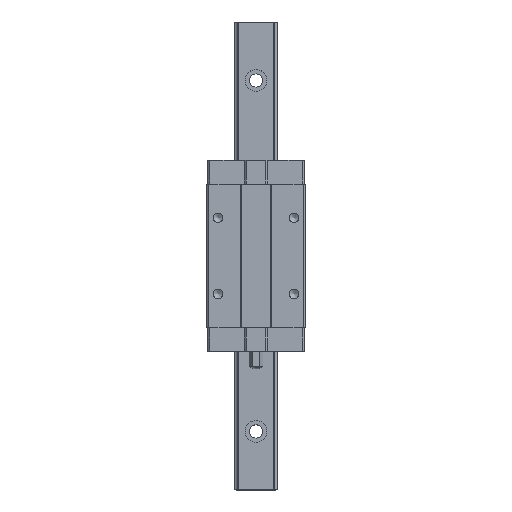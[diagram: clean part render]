
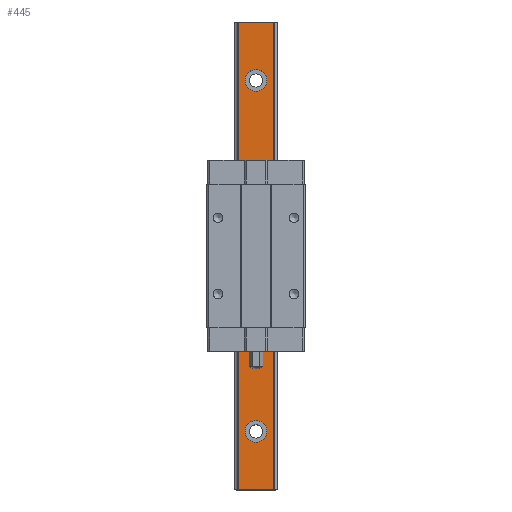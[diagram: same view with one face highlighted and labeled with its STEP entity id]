
A CAD part, top view. The second image highlights one B-rep face of the part: STEP entity #445.
In plain terms, the highlighted planar face has unit normal (0, 0, 1).
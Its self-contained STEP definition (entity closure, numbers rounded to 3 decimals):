
#445 = ADVANCED_FACE( '', ( #920, #921, #922, #923 ), #924, .T. );
#920 = FACE_BOUND( '', #1427, .T. );
#921 = FACE_BOUND( '', #1428, .T. );
#922 = FACE_BOUND( '', #1429, .T. );
#923 = FACE_OUTER_BOUND( '', #1430, .T. );
#924 = PLANE( '', #1431 );
#1427 = EDGE_LOOP( '', ( #2450 ) );
#1428 = EDGE_LOOP( '', ( #2451 ) );
#1429 = EDGE_LOOP( '', ( #2452 ) );
#1430 = EDGE_LOOP( '', ( #2453, #2454, #2455, #2456 ) );
#1431 = AXIS2_PLACEMENT_3D( '', #2457, #2458, #2459 );
#2450 = ORIENTED_EDGE( '', *, *, #2974, .T. );
#2451 = ORIENTED_EDGE( '', *, *, #3326, .T. );
#2452 = ORIENTED_EDGE( '', *, *, #3142, .T. );
#2453 = ORIENTED_EDGE( '', *, *, #3342, .F. );
#2454 = ORIENTED_EDGE( '', *, *, #3343, .F. );
#2455 = ORIENTED_EDGE( '', *, *, #3344, .T. );
#2456 = ORIENTED_EDGE( '', *, *, #3345, .T. );
#2457 = CARTESIAN_POINT( '', ( -6.004, -80., 13. ) );
#2458 = DIRECTION( '', ( 0., 0., 1. ) );
#2459 = DIRECTION( '', ( 1., 0., 0. ) );
#2974 = EDGE_CURVE( '', #3534, #3534, #3535, .T. );
#3142 = EDGE_CURVE( '', #3814, #3814, #3815, .T. );
#3326 = EDGE_CURVE( '', #4079, #4079, #4080, .T. );
#3342 = EDGE_CURVE( '', #4101, #4102, #4103, .T. );
#3343 = EDGE_CURVE( '', #4104, #4101, #4105, .T. );
#3344 = EDGE_CURVE( '', #4104, #4106, #4107, .T. );
#3345 = EDGE_CURVE( '', #4106, #4102, #4108, .T. );
#3534 = VERTEX_POINT( '', #4333 );
#3535 = CIRCLE( '', #4334, 3.75 );
#3814 = VERTEX_POINT( '', #4707 );
#3815 = CIRCLE( '', #4708, 3.75 );
#4079 = VERTEX_POINT( '', #5058 );
#4080 = CIRCLE( '', #5059, 3.75 );
#4101 = VERTEX_POINT( '', #5085 );
#4102 = VERTEX_POINT( '', #5086 );
#4103 = LINE( '', #5087, #5088 );
#4104 = VERTEX_POINT( '', #5089 );
#4105 = LINE( '', #5090, #5091 );
#4106 = VERTEX_POINT( '', #5092 );
#4107 = LINE( '', #5093, #5094 );
#4108 = LINE( '', #5095, #5096 );
#4333 = CARTESIAN_POINT( '', ( 0., -63.75, 13. ) );
#4334 = AXIS2_PLACEMENT_3D( '', #5314, #5315, #5316 );
#4707 = CARTESIAN_POINT( '', ( 0., 56.25, 13. ) );
#4708 = AXIS2_PLACEMENT_3D( '', #5522, #5523, #5524 );
#5058 = CARTESIAN_POINT( '', ( 0., -3.75, 13. ) );
#5059 = AXIS2_PLACEMENT_3D( '', #5743, #5744, #5745 );
#5085 = CARTESIAN_POINT( '', ( -6.004, 80., 13. ) );
#5086 = CARTESIAN_POINT( '', ( 6.004, 80., 13. ) );
#5087 = CARTESIAN_POINT( '', ( -6.004, 80., 13. ) );
#5088 = VECTOR( '', #5760, 1000. );
#5089 = CARTESIAN_POINT( '', ( -6.004, -80., 13. ) );
#5090 = CARTESIAN_POINT( '', ( -6.004, -80., 13. ) );
#5091 = VECTOR( '', #5761, 1000. );
#5092 = CARTESIAN_POINT( '', ( 6.004, -80., 13. ) );
#5093 = CARTESIAN_POINT( '', ( -6.004, -80., 13. ) );
#5094 = VECTOR( '', #5762, 1000. );
#5095 = CARTESIAN_POINT( '', ( 6.004, -80., 13. ) );
#5096 = VECTOR( '', #5763, 1000. );
#5314 = CARTESIAN_POINT( '', ( 0., -60., 13. ) );
#5315 = DIRECTION( '', ( 0., 0., -1. ) );
#5316 = DIRECTION( '', ( 0., -1., 0. ) );
#5522 = CARTESIAN_POINT( '', ( 0., 60., 13. ) );
#5523 = DIRECTION( '', ( 0., 0., -1. ) );
#5524 = DIRECTION( '', ( 0., -1., 0. ) );
#5743 = CARTESIAN_POINT( '', ( 0., 0., 13. ) );
#5744 = DIRECTION( '', ( 0., 0., -1. ) );
#5745 = DIRECTION( '', ( 0., -1., 0. ) );
#5760 = DIRECTION( '', ( 1., 0., 0. ) );
#5761 = DIRECTION( '', ( 0., 1., 0. ) );
#5762 = DIRECTION( '', ( 1., 0., 0. ) );
#5763 = DIRECTION( '', ( 0., 1., 0. ) );
